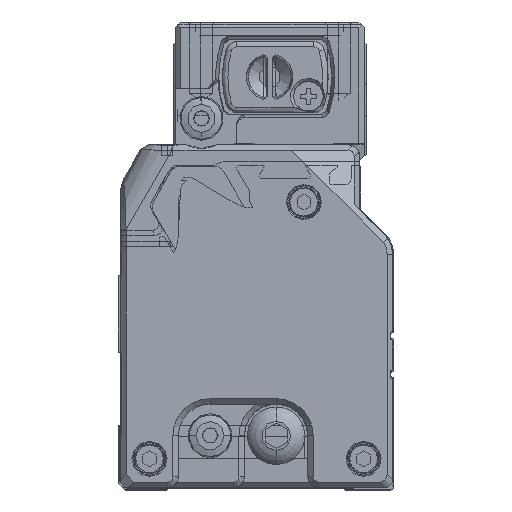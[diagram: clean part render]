
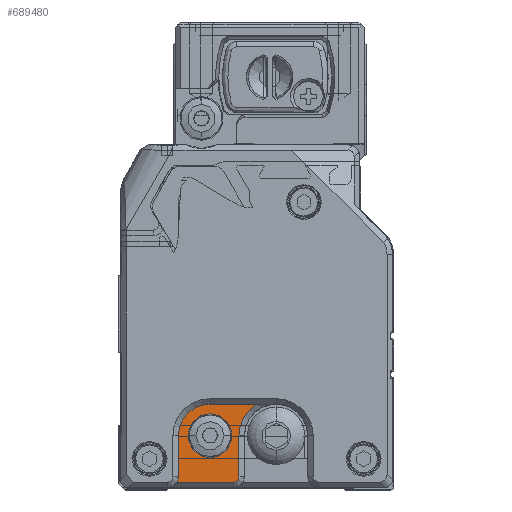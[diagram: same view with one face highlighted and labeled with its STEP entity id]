
A CAD part, left-side view. The second image highlights one B-rep face of the part: STEP entity #689480.
In plain terms, the highlighted planar face has unit normal (-1, 0, 0) as drawn and (1, 0, 0) by its records, which use the part's own axes.
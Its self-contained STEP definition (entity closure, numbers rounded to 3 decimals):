
#688580=CARTESIAN_POINT('',(4264.177,-5.938,
-12.8));
#688590=DIRECTION('',(-1.,0.,0.));
#688600=DIRECTION('',(0.,0.,-1.));
#688610=AXIS2_PLACEMENT_3D('',#688580,#688590,#688600);
#688620=PLANE('',#688610);
#688630=CARTESIAN_POINT('',(4264.177,4.212,
11.598));
#688640=DIRECTION('',(0.,-1.,0.));
#688650=VECTOR('',#688640,1.);
#688660=LINE('',#688630,#688650);
#688670=CARTESIAN_POINT('',(4264.177,8.48,
11.598));
#688680=VERTEX_POINT('',#688670);
#688690=CARTESIAN_POINT('',(4264.177,-1.788,
11.598));
#688700=VERTEX_POINT('',#688690);
#688710=EDGE_CURVE('',#688680,#688700,#688660,.T.);
#688720=ORIENTED_EDGE('',*,*,#688710,.T.);
#688730=CARTESIAN_POINT('',(4264.177,10.212,
10.598));
#688740=DIRECTION('',(-1.,0.,0.));
#688750=DIRECTION('',(0.,1.,0.));
#688760=AXIS2_PLACEMENT_3D('',#688730,#688740,#688750);
#688770=CIRCLE('',#688760,2.);
#688780=CARTESIAN_POINT('',(4264.177,8.212,
10.598));
#688790=VERTEX_POINT('',#688780);
#688800=EDGE_CURVE('',#688790,#688680,#688770,.T.);
#688810=ORIENTED_EDGE('',*,*,#688800,.T.);
#688820=CARTESIAN_POINT('',(4264.177,8.212,
3.148));
#688830=DIRECTION('',(0.,0.,1.));
#688840=VECTOR('',#688830,1.);
#688850=LINE('',#688820,#688840);
#688860=CARTESIAN_POINT('',(4264.177,8.212,
3.148));
#688870=VERTEX_POINT('',#688860);
#688880=EDGE_CURVE('',#688870,#688790,#688850,.T.);
#688890=ORIENTED_EDGE('',*,*,#688880,.T.);
#688900=CARTESIAN_POINT('',(4264.177,2.462,
3.148));
#688910=DIRECTION('',(-1.,0.,0.));
#688920=DIRECTION('',(0.,1.,0.));
#688930=AXIS2_PLACEMENT_3D('',#688900,#688910,#688920);
#688940=CIRCLE('',#688930,5.75);
#688950=CARTESIAN_POINT('',(4264.177,2.462,
-2.602));
#688960=VERTEX_POINT('',#688950);
#688970=EDGE_CURVE('',#688870,#688960,#688940,.T.);
#688980=ORIENTED_EDGE('',*,*,#688970,.F.);
#688990=CARTESIAN_POINT('',(4264.177,-5.888,
-2.602));
#689000=DIRECTION('',(0.,1.,0.));
#689010=VECTOR('',#689000,1.);
#689020=LINE('',#688990,#689010);
#689030=CARTESIAN_POINT('',(4264.177,-6.002,
-2.602));
#689040=VERTEX_POINT('',#689030);
#689050=EDGE_CURVE('',#689040,#688960,#689020,.T.);
#689060=ORIENTED_EDGE('',*,*,#689050,.T.);
#689070=CARTESIAN_POINT('',(4264.177,-9.538,
3.148));
#689080=DIRECTION('',(-1.,0.,0.));
#689090=DIRECTION('',(0.,1.,0.));
#689100=AXIS2_PLACEMENT_3D('',#689070,#689080,#689090);
#689110=CIRCLE('',#689100,6.75);
#689120=CARTESIAN_POINT('',(4264.177,-2.788,
3.148));
#689130=VERTEX_POINT('',#689120);
#689140=EDGE_CURVE('',#689130,#689040,#689110,.T.);
#689150=ORIENTED_EDGE('',*,*,#689140,.T.);
#689160=CARTESIAN_POINT('',(4264.177,-2.788,
6.873));
#689170=DIRECTION('',(0.,0.,-1.));
#689180=VECTOR('',#689170,1.);
#689190=LINE('',#689160,#689180);
#689200=CARTESIAN_POINT('',(4264.177,-2.788,
10.598));
#689210=VERTEX_POINT('',#689200);
#689220=EDGE_CURVE('',#689210,#689130,#689190,.T.);
#689230=ORIENTED_EDGE('',*,*,#689220,.T.);
#689240=CARTESIAN_POINT('',(4264.177,-1.788,
10.598));
#689250=DIRECTION('',(-1.,0.,0.));
#689260=DIRECTION('',(0.,1.,0.));
#689270=AXIS2_PLACEMENT_3D('',#689240,#689250,#689260);
#689280=CIRCLE('',#689270,1.);
#689290=EDGE_CURVE('',#689210,#688700,#689280,.T.);
#689300=ORIENTED_EDGE('',*,*,#689290,.F.);
#689310=EDGE_LOOP('',(#689300,#689230,#689150,#689060,#688980,#688890,
#688810,#688720));
#689320=FACE_OUTER_BOUND('',#689310,.T.);
#689330=CARTESIAN_POINT('',(4264.177,2.462,
3.148));
#689340=DIRECTION('',(-1.,0.,0.));
#689350=DIRECTION('',(0.,0.,-1.));
#689360=AXIS2_PLACEMENT_3D('',#689330,#689340,#689350);
#689370=CIRCLE('',#689360,4.);
#689380=CARTESIAN_POINT('',(4264.177,2.462,
7.148));
#689390=VERTEX_POINT('',#689380);
#689400=CARTESIAN_POINT('',(4264.177,2.462,
-0.852));
#689410=VERTEX_POINT('',#689400);
#689420=EDGE_CURVE('',#689390,#689410,#689370,.T.);
#689430=ORIENTED_EDGE('',*,*,#689420,.T.);
#689440=EDGE_CURVE('',#689410,#689390,#689370,.T.);
#689450=ORIENTED_EDGE('',*,*,#689440,.T.);
#689460=EDGE_LOOP('',(#689450,#689430));
#689470=FACE_BOUND('',#689460,.T.);
#689480=ADVANCED_FACE('',(#689320,#689470),#688620,.F.);
